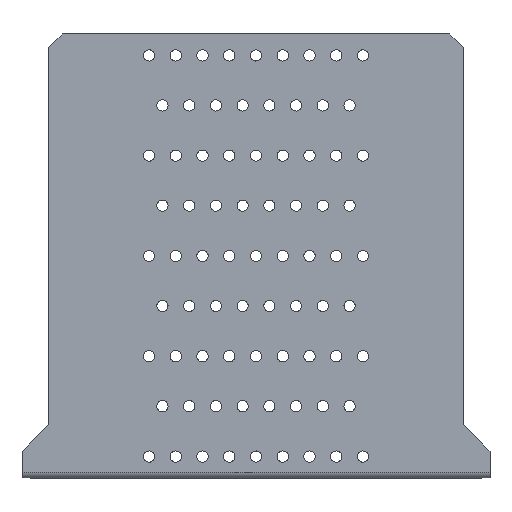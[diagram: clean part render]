
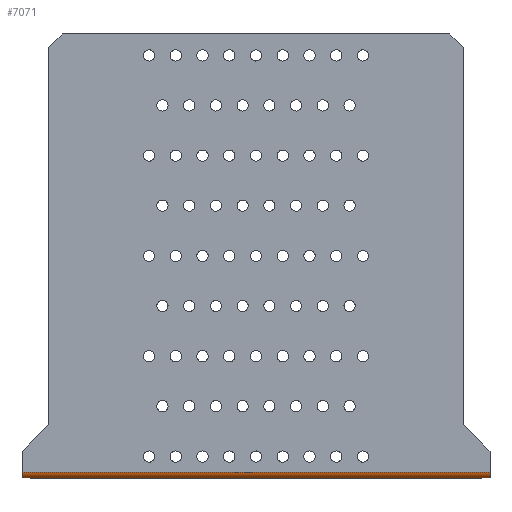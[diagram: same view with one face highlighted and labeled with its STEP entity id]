
A CAD part, top view. The second image highlights one B-rep face of the part: STEP entity #7071.
In plain terms, the highlighted cylindrical face has radius 2.1 mm (diameter 4.2 mm), a partial arc.
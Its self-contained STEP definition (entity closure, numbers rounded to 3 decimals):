
#2266=CARTESIAN_POINT(' ',(87.5,-83.,-2.1));
#2267=VERTEX_POINT(' ',#2266);
#2281=CARTESIAN_POINT(' ',(-87.5,-83.,-2.1));
#2286=DIRECTION(' ',(1.,0.,0.));
#2291=VECTOR(' ',#2286,1.);
#2296=LINE('',#2281,#2291);
#2301=CARTESIAN_POINT(' ',(-87.5,-83.,-2.1));
#2302=VERTEX_POINT(' ',#2301);
#2306=EDGE_CURVE(' ',#2302,#2267,#2296,.T.);
#6921=CARTESIAN_POINT(' ',(-87.5,-80.9,-2.1));
#6926=DIRECTION(' ',(-1.,0.,0.));
#6931=DIRECTION(' ',(0.,-1.,0.));
#6936=AXIS2_PLACEMENT_3D(' ',#6921,#6926,#6931);
#6941=CYLINDRICAL_SURFACE(' ',#6936,2.1);
#6946=CARTESIAN_POINT(' ',(-87.5,-80.9,0.));
#6951=DIRECTION(' ',(1.,0.,0.));
#6956=VECTOR(' ',#6951,1.);
#6961=LINE('',#6946,#6956);
#6966=CARTESIAN_POINT(' ',(-87.5,-80.9,0.));
#6967=VERTEX_POINT(' ',#6966);
#6971=CARTESIAN_POINT(' ',(87.5,-80.9,0.));
#6972=VERTEX_POINT(' ',#6971);
#6976=EDGE_CURVE(' ',#6967,#6972,#6961,.T.);
#6981=ORIENTED_EDGE(' ',*,*,#6976,.F.);
#6986=CARTESIAN_POINT(' ',(-87.5,-80.9,-2.1));
#6991=DIRECTION(' ',(-1.,0.,-0.));
#6996=DIRECTION(' ',(0.,-1.,0.));
#7001=AXIS2_PLACEMENT_3D(' ',#6986,#6991,#6996);
#7006=CIRCLE('',#7001,2.1);
#7011=EDGE_CURVE(' ',#2302,#6967,#7006,.T.);
#7016=ORIENTED_EDGE(' ',*,*,#7011,.F.);
#7021=ORIENTED_EDGE(' ',*,*,#2306,.T.);
#7026=CARTESIAN_POINT(' ',(87.5,-80.9,-2.1));
#7031=DIRECTION(' ',(1.,-0.,0.));
#7036=DIRECTION(' ',(0.,0.,1.));
#7041=AXIS2_PLACEMENT_3D(' ',#7026,#7031,#7036);
#7046=CIRCLE('',#7041,2.1);
#7051=EDGE_CURVE(' ',#6972,#2267,#7046,.T.);
#7056=ORIENTED_EDGE(' ',*,*,#7051,.F.);
#7061=EDGE_LOOP(' ',(#6981,#7016,#7021,#7056));
#7066=FACE_OUTER_BOUND(' ',#7061,.T.);
#7071=ADVANCED_FACE('NONE',(#7066),#6941,.T.);
